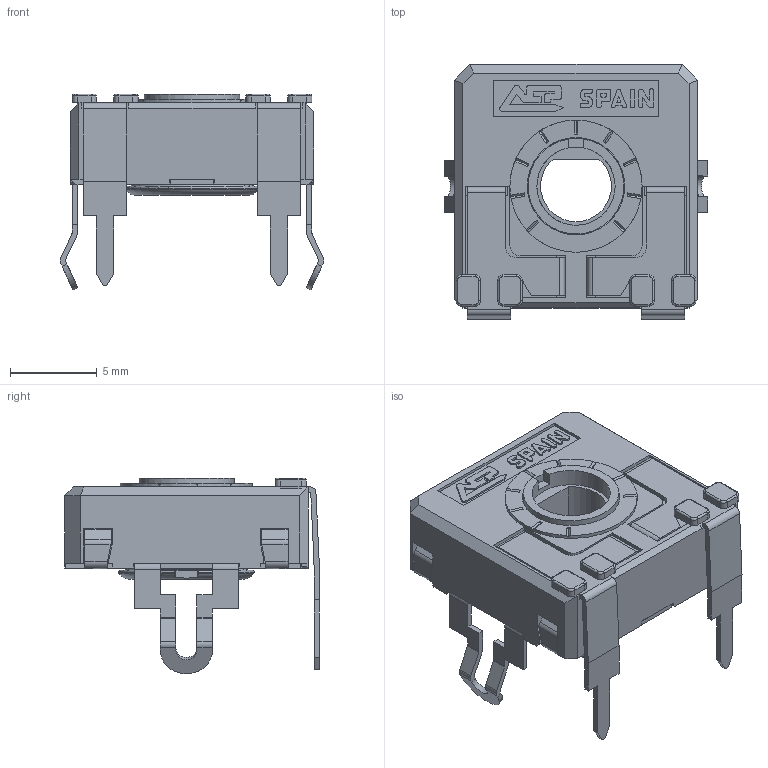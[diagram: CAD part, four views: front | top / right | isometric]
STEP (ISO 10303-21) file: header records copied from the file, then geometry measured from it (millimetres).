
FILE_DESCRIPTION(/* description */ (''),/* implementation_level */ '2;1');
FILE_NAME(/* name */ '\\SERVERACP\intercambio\Ignacio Santa Cecilia\Nueva WEB 2025\CA14 - CE14\CA14DVD7,5.stp',/* time_stamp */ '2025-06-06T09:54:34+02:00',/* author */ ('CEM'),/* organization */ (''),/* preprocessor_version */ 'ST-DEVELOPER v17',/* originating_system */ 'Autodesk Inventor 2018',/* authorisation */ '');
FILE_SCHEMA (('AUTOMOTIVE_DESIGN { 1 0 10303 214 3 1 1 }'));
Length unit declared in the file: millimetre
Products named in the file (1): CARCASA CA14 PGA
Bounding box: 15.16 x 14.65 x 11.25 mm (x, y, z)
Volume: 538.2 mm3; surface area: 1547.6 mm2
Topology: 1 solids, 1 shells, 726 faces, 2064 edges, 1330 vertices
Faces by surface type: plane 529, cylinder 160, torus 23, bspline 8, cone 6
Full cylindrical faces by diameter (mm): 4.5 x1, 5.5 x1, 5.6 x1, 5.752 x1, 6.8 x1, 7.6 x1
Entity records: 23861 total; most frequent: CARTESIAN_POINT 4418, ORIENTED_EDGE 4128, DIRECTION 3867, EDGE_CURVE 2064, LINE 1609, VECTOR 1609, VERTEX_POINT 1330, AXIS2_PLACEMENT_3D 1129
